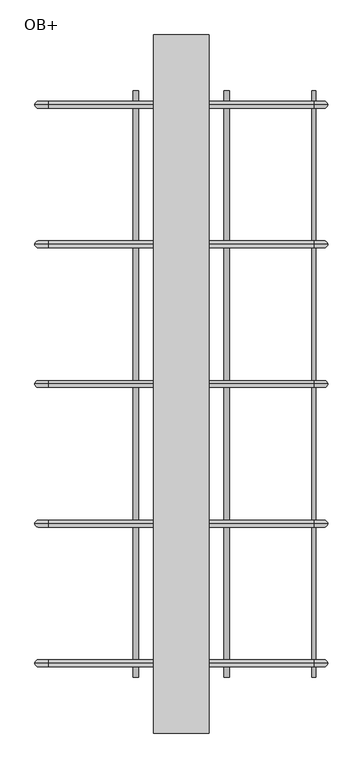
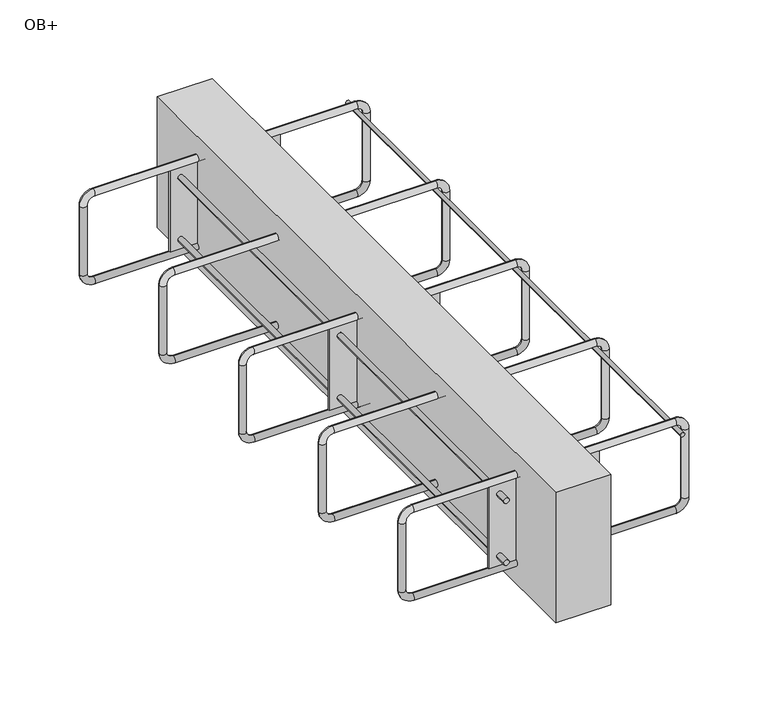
"""IFC4 building model written with IfcOpenShell, lengths in millimetres: fastener geometry, ACINOXplus_Typenreihe_Ux-Ox : OB+."""

from ifc_helpers import new_model, si_unit, point, frame, frame_2d, origin, place, context, project, spatial, polyline, circle_curve, ellipse_curve, trimmed, segment, composite_curve, outline, extrude, source, transform, mapped, element, save
from ifc_brep_helpers import cylinder_surface, revolved_surface, advanced_brep


def ob_f7585948(model_context):
    return source(origin(), model_context, "Body", "SolidModel", [
        extrude(outline(composite_curve([segment(trimmed(circle_curve(frame_2d((-40.5, 190.0)), 3.0), [point((-40.5, 193.0))], [point((-40.5, 187.0))], False, "CARTESIAN"), True, "CONTINUOUS"), segment(trimmed(circle_curve(frame_2d((-40.5, 190.0)), 3.0), [point((-40.5, 187.0))], [point((-40.5, 193.0))], False, "CARTESIAN"), True, "CONTINUOUS")], self_intersect=False)), frame((0.0, -420.0, 0.0), z_axis=(0.0, 1.0, 0.0), x_axis=(0.0, 0.0, 1.0)), (0.0, 0.0, 1.0), 840.0),
        extrude(outline(polyline([(40.0, 500.0), (40.0, -500.0), (-40.0, -500.0), (-40.0, 500.0), (40.0, 500.0)])), frame((0.0, 0.0, -200.0), z_axis=(0.0, 0.0, 1.0), x_axis=(1.0, 0.0, 0.0)), (0.0, 0.0, 1.0), 200.0),
        extrude(outline(polyline([(80.0, 1.5), (80.0, -1.5), (-80.0, -1.5), (-80.0, 1.5), (80.0, 1.5)])), frame((0.0, 0.0, -162.5), z_axis=(0.0, 0.0, 1.0), x_axis=(1.0, 0.0, 0.0)), (0.0, 0.0, 1.0), 125.0),
        extrude(outline(polyline([(80.0, -398.5), (80.0, -401.5), (-80.0, -401.5), (-80.0, -398.5), (80.0, -398.5)])), frame((0.0, 0.0, -162.5), z_axis=(0.0, 0.0, 1.0), x_axis=(1.0, 0.0, 0.0)), (0.0, 0.0, 1.0), 125.0),
        extrude(outline(polyline([(80.0, 401.5), (80.0, 398.5), (-80.0, 398.5), (-80.0, 401.5), (80.0, 401.5)])), frame((0.0, 0.0, -162.5), z_axis=(0.0, 0.0, 1.0), x_axis=(1.0, 0.0, 0.0)), (0.0, 0.0, 1.0), 125.0),
        extrude(outline(composite_curve([segment(trimmed(circle_curve(frame_2d((-147.5, -65.0)), 4.0), [point((-147.5, -61.0))], [point((-147.5, -69.0))], False, "CARTESIAN"), True, "CONTINUOUS"), segment(trimmed(circle_curve(frame_2d((-147.5, -65.0)), 4.0), [point((-147.5, -69.0))], [point((-147.5, -61.0))], False, "CARTESIAN"), True, "CONTINUOUS")], self_intersect=False)), frame((0.0, -420.0, 0.0), z_axis=(0.0, 1.0, 0.0), x_axis=(0.0, 0.0, 1.0)), (0.0, 0.0, 1.0), 18.5),
        extrude(outline(composite_curve([segment(trimmed(circle_curve(frame_2d((-147.5, -65.0)), 4.0), [point((-147.5, -69.0))], [point((-147.5, -61.0))], False, "CARTESIAN"), True, "CONTINUOUS"), segment(trimmed(circle_curve(frame_2d((-147.5, -65.0)), 4.0), [point((-147.5, -61.0))], [point((-147.5, -69.0))], False, "CARTESIAN"), True, "CONTINUOUS")], self_intersect=False)), frame((0.0, -398.5, 0.0), z_axis=(0.0, 1.0, 0.0), x_axis=(0.0, 0.0, 1.0)), (0.0, 0.0, 1.0), 397.0),
        extrude(outline(composite_curve([segment(trimmed(circle_curve(frame_2d((-147.5, -65.0)), 4.0), [point((-147.5, -69.0))], [point((-147.5, -61.0))], False, "CARTESIAN"), True, "CONTINUOUS"), segment(trimmed(circle_curve(frame_2d((-147.5, -65.0)), 4.0), [point((-147.5, -61.0))], [point((-147.5, -69.0))], False, "CARTESIAN"), True, "CONTINUOUS")], self_intersect=False)), frame((0.0, 401.5, 0.0), z_axis=(0.0, 1.0, 0.0), x_axis=(0.0, 0.0, 1.0)), (0.0, 0.0, 1.0), 18.5),
        extrude(outline(composite_curve([segment(trimmed(circle_curve(frame_2d((-147.5, -65.0)), 4.0), [point((-147.5, -69.0))], [point((-147.5, -61.0))], False, "CARTESIAN"), True, "CONTINUOUS"), segment(trimmed(circle_curve(frame_2d((-147.5, -65.0)), 4.0), [point((-147.5, -61.0))], [point((-147.5, -69.0))], False, "CARTESIAN"), True, "CONTINUOUS")], self_intersect=False)), frame((0.0, 1.5, 0.0), z_axis=(0.0, 1.0, 0.0), x_axis=(0.0, 0.0, 1.0)), (0.0, 0.0, 1.0), 397.0),
        extrude(outline(composite_curve([segment(trimmed(circle_curve(frame_2d((-147.5, 65.0)), 4.0), [point((-147.5, 69.0))], [point((-147.5, 61.0))], False, "CARTESIAN"), True, "CONTINUOUS"), segment(trimmed(circle_curve(frame_2d((-147.5, 65.0)), 4.0), [point((-147.5, 61.0))], [point((-147.5, 69.0))], False, "CARTESIAN"), True, "CONTINUOUS")], self_intersect=False)), frame((0.0, -420.0, 0.0), z_axis=(0.0, 1.0, 0.0), x_axis=(0.0, 0.0, 1.0)), (0.0, 0.0, 1.0), 18.5),
        extrude(outline(composite_curve([segment(trimmed(circle_curve(frame_2d((-147.5, 65.0)), 4.0), [point((-147.5, 61.0))], [point((-147.5, 69.0))], False, "CARTESIAN"), True, "CONTINUOUS"), segment(trimmed(circle_curve(frame_2d((-147.5, 65.0)), 4.0), [point((-147.5, 69.0))], [point((-147.5, 61.0))], False, "CARTESIAN"), True, "CONTINUOUS")], self_intersect=False)), frame((0.0, -398.5, 0.0), z_axis=(0.0, 1.0, 0.0), x_axis=(0.0, 0.0, 1.0)), (0.0, 0.0, 1.0), 397.0),
        extrude(outline(composite_curve([segment(trimmed(circle_curve(frame_2d((-147.5, 65.0)), 4.0), [point((-147.5, 61.0))], [point((-147.5, 69.0))], False, "CARTESIAN"), True, "CONTINUOUS"), segment(trimmed(circle_curve(frame_2d((-147.5, 65.0)), 4.0), [point((-147.5, 69.0))], [point((-147.5, 61.0))], False, "CARTESIAN"), True, "CONTINUOUS")], self_intersect=False)), frame((0.0, 401.5, 0.0), z_axis=(0.0, 1.0, 0.0), x_axis=(0.0, 0.0, 1.0)), (0.0, 0.0, 1.0), 18.5),
        extrude(outline(composite_curve([segment(trimmed(circle_curve(frame_2d((-147.5, 65.0)), 4.0), [point((-147.5, 61.0))], [point((-147.5, 69.0))], False, "CARTESIAN"), True, "CONTINUOUS"), segment(trimmed(circle_curve(frame_2d((-147.5, 65.0)), 4.0), [point((-147.5, 69.0))], [point((-147.5, 61.0))], False, "CARTESIAN"), True, "CONTINUOUS")], self_intersect=False)), frame((0.0, 1.5, 0.0), z_axis=(0.0, 1.0, 0.0), x_axis=(0.0, 0.0, 1.0)), (0.0, 0.0, 1.0), 397.0),
        extrude(outline(composite_curve([segment(trimmed(circle_curve(frame_2d((-52.5, -65.0)), 4.0), [point((-52.5, -69.0))], [point((-52.5, -61.0))], False, "CARTESIAN"), True, "CONTINUOUS"), segment(trimmed(circle_curve(frame_2d((-52.5, -65.0)), 4.0), [point((-52.5, -61.0))], [point((-52.5, -69.0))], False, "CARTESIAN"), True, "CONTINUOUS")], self_intersect=False)), frame((0.0, 401.5, 0.0), z_axis=(0.0, 1.0, 0.0), x_axis=(0.0, 0.0, 1.0)), (0.0, 0.0, 1.0), 18.5),
        extrude(outline(composite_curve([segment(trimmed(circle_curve(frame_2d((-52.5, -65.0)), 4.0), [point((-52.5, -61.0))], [point((-52.5, -69.0))], False, "CARTESIAN"), True, "CONTINUOUS"), segment(trimmed(circle_curve(frame_2d((-52.5, -65.0)), 4.0), [point((-52.5, -69.0))], [point((-52.5, -61.0))], False, "CARTESIAN"), True, "CONTINUOUS")], self_intersect=False)), frame((0.0, -420.0, 0.0), z_axis=(0.0, 1.0, 0.0), x_axis=(0.0, 0.0, 1.0)), (0.0, 0.0, 1.0), 18.5),
        extrude(outline(composite_curve([segment(trimmed(circle_curve(frame_2d((-52.5, -65.0)), 4.0), [point((-52.5, -69.0))], [point((-52.5, -61.0))], False, "CARTESIAN"), True, "CONTINUOUS"), segment(trimmed(circle_curve(frame_2d((-52.5, -65.0)), 4.0), [point((-52.5, -61.0))], [point((-52.5, -69.0))], False, "CARTESIAN"), True, "CONTINUOUS")], self_intersect=False)), frame((0.0, -398.5, 0.0), z_axis=(0.0, 1.0, 0.0), x_axis=(0.0, 0.0, 1.0)), (0.0, 0.0, 1.0), 397.0),
        extrude(outline(composite_curve([segment(trimmed(circle_curve(frame_2d((-52.5, -65.0)), 4.0), [point((-52.5, -69.0))], [point((-52.5, -61.0))], False, "CARTESIAN"), True, "CONTINUOUS"), segment(trimmed(circle_curve(frame_2d((-52.5, -65.0)), 4.0), [point((-52.5, -61.0))], [point((-52.5, -69.0))], False, "CARTESIAN"), True, "CONTINUOUS")], self_intersect=False)), frame((0.0, 1.5, 0.0), z_axis=(0.0, 1.0, 0.0), x_axis=(0.0, 0.0, 1.0)), (0.0, 0.0, 1.0), 397.0),
        extrude(outline(composite_curve([segment(trimmed(circle_curve(frame_2d((-52.5, 65.0)), 4.0), [point((-52.5, 61.0))], [point((-52.5, 69.0))], False, "CARTESIAN"), True, "CONTINUOUS"), segment(trimmed(circle_curve(frame_2d((-52.5, 65.0)), 4.0), [point((-52.5, 69.0))], [point((-52.5, 61.0))], False, "CARTESIAN"), True, "CONTINUOUS")], self_intersect=False)), frame((0.0, 401.5, 0.0), z_axis=(0.0, 1.0, 0.0), x_axis=(0.0, 0.0, 1.0)), (0.0, 0.0, 1.0), 18.5),
        extrude(outline(composite_curve([segment(trimmed(circle_curve(frame_2d((-52.5, 65.0)), 4.0), [point((-52.5, 69.0))], [point((-52.5, 61.0))], False, "CARTESIAN"), True, "CONTINUOUS"), segment(trimmed(circle_curve(frame_2d((-52.5, 65.0)), 4.0), [point((-52.5, 61.0))], [point((-52.5, 69.0))], False, "CARTESIAN"), True, "CONTINUOUS")], self_intersect=False)), frame((0.0, -420.0, 0.0), z_axis=(0.0, 1.0, 0.0), x_axis=(0.0, 0.0, 1.0)), (0.0, 0.0, 1.0), 18.5),
        extrude(outline(composite_curve([segment(trimmed(circle_curve(frame_2d((-52.5, 65.0)), 4.0), [point((-52.5, 61.0))], [point((-52.5, 69.0))], False, "CARTESIAN"), True, "CONTINUOUS"), segment(trimmed(circle_curve(frame_2d((-52.5, 65.0)), 4.0), [point((-52.5, 69.0))], [point((-52.5, 61.0))], False, "CARTESIAN"), True, "CONTINUOUS")], self_intersect=False)), frame((0.0, -398.5, 0.0), z_axis=(0.0, 1.0, 0.0), x_axis=(0.0, 0.0, 1.0)), (0.0, 0.0, 1.0), 397.0),
        extrude(outline(composite_curve([segment(trimmed(circle_curve(frame_2d((-52.5, 65.0)), 4.0), [point((-52.5, 61.0))], [point((-52.5, 69.0))], False, "CARTESIAN"), True, "CONTINUOUS"), segment(trimmed(circle_curve(frame_2d((-52.5, 65.0)), 4.0), [point((-52.5, 69.0))], [point((-52.5, 61.0))], False, "CARTESIAN"), True, "CONTINUOUS")], self_intersect=False)), frame((0.0, 1.5, 0.0), z_axis=(0.0, 1.0, 0.0), x_axis=(0.0, 0.0, 1.0)), (0.0, 0.0, 1.0), 397.0),
        advanced_brep(
        [(190.0, 200.0, -37.5), (190.0, 200.0, -27.5), (-190.0, 200.0, -27.5), (-190.0, 200.0, -37.5), (-200.0, 200.0, -47.5), (-210.0, 200.0, -47.5), (-210.0, 200.0, -152.5), (-200.0, 200.0, -152.5), (-190.0, 200.0, -162.5), (-190.0, 200.0, -172.5), (190.0, 200.0, -172.5), (190.0, 200.0, -162.5), (200.0, 200.0, -152.5), (210.0, 200.0, -152.5), (210.0, 200.0, -47.5), (200.0, 200.0, -47.5)],
        [
            (0, 1, circle_curve(frame((190.0, 200.0, -32.5), z_axis=(-1.0, 0.0, 0.0), x_axis=(0.0, 0.0, -1.0)), 5.0)),
            (1, 2),
            (2, 3, circle_curve(frame((-190.0, 200.0, -32.5), z_axis=(1.0, 0.0, 0.0), x_axis=(0.0, 0.0, -1.0)), 5.0)),
            (3, 0),
            (1, 0, circle_curve(frame((190.0, 200.0, -32.5), z_axis=(-1.0, 0.0, 0.0), x_axis=(0.0, 0.0, -1.0)), 5.0)),
            (3, 2, circle_curve(frame((-190.0, 200.0, -32.5), z_axis=(1.0, 0.0, 0.0), x_axis=(0.0, 0.0, -1.0)), 5.0)),
            (4, 3, circle_curve(frame((-190.0, 200.0, -47.5), z_axis=(0.0, 1.0, 0.0), x_axis=(0.0, 0.0, 1.0)), 10.0)),
            (2, 5, circle_curve(frame((-190.0, 200.0, -47.5), z_axis=(0.0, -1.0, 0.0), x_axis=(0.0, 0.0, 1.0)), 20.0)),
            (5, 4, circle_curve(frame((-205.0, 200.0, -47.5), z_axis=(0.0, 0.0, 1.0), x_axis=(1.0, 0.0, 0.0)), 5.0)),
            (4, 5, circle_curve(frame((-205.0, 200.0, -47.5), z_axis=(0.0, 0.0, 1.0), x_axis=(1.0, 0.0, 0.0)), 5.0)),
            (5, 6),
            (6, 7, circle_curve(frame((-205.0, 200.0, -152.5), z_axis=(0.0, 0.0, 1.0), x_axis=(1.0, 0.0, 0.0)), 5.0)),
            (7, 4),
            (7, 6, circle_curve(frame((-205.0, 200.0, -152.5), z_axis=(0.0, 0.0, 1.0), x_axis=(1.0, 0.0, 0.0)), 5.0)),
            (8, 7, circle_curve(frame((-190.0, 200.0, -152.5), z_axis=(0.0, 1.0, 0.0), x_axis=(-1.0, 0.0, 0.0)), 10.0)),
            (6, 9, circle_curve(frame((-190.0, 200.0, -152.5), z_axis=(0.0, -1.0, 0.0), x_axis=(-1.0, 0.0, 0.0)), 20.0)),
            (9, 8, circle_curve(frame((-190.0, 200.0, -167.5), z_axis=(-1.0, 0.0, 0.0), x_axis=(0.0, 0.0, 1.0)), 5.0)),
            (8, 9, circle_curve(frame((-190.0, 200.0, -167.5), z_axis=(-1.0, 0.0, 0.0), x_axis=(0.0, 0.0, 1.0)), 5.0)),
            (9, 10),
            (10, 11, circle_curve(frame((190.0, 200.0, -167.5), z_axis=(-1.0, 0.0, 0.0), x_axis=(0.0, 0.0, 1.0)), 5.0)),
            (11, 8),
            (11, 10, circle_curve(frame((190.0, 200.0, -167.5), z_axis=(-1.0, 0.0, 0.0), x_axis=(0.0, 0.0, 1.0)), 5.0)),
            (12, 11, circle_curve(frame((190.0, 200.0, -152.5), z_axis=(0.0, 1.0, 0.0), x_axis=(0.0, 0.0, -1.0)), 10.0)),
            (10, 13, circle_curve(frame((190.0, 200.0, -152.5), z_axis=(0.0, -1.0, 0.0), x_axis=(0.0, 0.0, -1.0)), 20.0)),
            (13, 12, circle_curve(frame((205.0, 200.0, -152.5), z_axis=(0.0, 0.0, -1.0), x_axis=(-1.0, 0.0, 0.0)), 5.0)),
            (12, 13, circle_curve(frame((205.0, 200.0, -152.5), z_axis=(0.0, 0.0, -1.0), x_axis=(-1.0, 0.0, 0.0)), 5.0)),
            (13, 14),
            (14, 15, circle_curve(frame((205.0, 200.0, -47.5), z_axis=(0.0, 0.0, -1.0), x_axis=(-1.0, 0.0, 0.0)), 5.0)),
            (15, 12),
            (15, 14, circle_curve(frame((205.0, 200.0, -47.5), z_axis=(0.0, 0.0, -1.0), x_axis=(-1.0, 0.0, 0.0)), 5.0)),
            (0, 15, circle_curve(frame((190.0, 200.0, -47.5), z_axis=(0.0, 1.0, 0.0), x_axis=(1.0, 0.0, 0.0)), 10.0)),
            (14, 1, circle_curve(frame((190.0, 200.0, -47.5), z_axis=(0.0, -1.0, 0.0), x_axis=(1.0, 0.0, 0.0)), 20.0)),
        ],
        [
            cylinder_surface(frame((190.0, 200.0, -32.5), z_axis=(1.0, 0.0, 0.0), x_axis=(0.0, 0.0, -1.0)), 5.0),
            revolved_surface(trimmed(ellipse_curve(frame((-190.0, 200.0, -32.5), z_axis=(1.0, 0.0, 0.0), x_axis=(0.0, 0.0, -1.0)), 5.0, 5.0), [point((-190.0, 200.0, -27.5))], [point((-190.0, 200.0, -37.5))], True, "CARTESIAN"), (-190.0, 200.0, -47.5), (0.0, -1.0, 0.0)),
            revolved_surface(trimmed(ellipse_curve(frame((-190.0, 200.0, -32.5), z_axis=(1.0, 0.0, 0.0), x_axis=(0.0, 0.0, -1.0)), 5.0, 5.0), [point((-190.0, 200.0, -37.5))], [point((-190.0, 200.0, -27.5))], True, "CARTESIAN"), (-190.0, 200.0, -47.5), (0.0, -1.0, 0.0)),
            cylinder_surface(frame((-205.0, 200.0, -47.5), z_axis=(0.0, 0.0, 1.0), x_axis=(1.0, 0.0, 0.0)), 5.0),
            revolved_surface(trimmed(ellipse_curve(frame((-205.0, 200.0, -152.5), z_axis=(0.0, 0.0, 1.0), x_axis=(1.0, 0.0, 0.0)), 5.0, 5.0), [point((-210.0, 200.0, -152.5))], [point((-200.0, 200.0, -152.5))], True, "CARTESIAN"), (-190.0, 200.0, -152.5), (0.0, -1.0, 0.0)),
            revolved_surface(trimmed(ellipse_curve(frame((-205.0, 200.0, -152.5), z_axis=(0.0, 0.0, 1.0), x_axis=(1.0, 0.0, 0.0)), 5.0, 5.0), [point((-200.0, 200.0, -152.5))], [point((-210.0, 200.0, -152.5))], True, "CARTESIAN"), (-190.0, 200.0, -152.5), (0.0, -1.0, 0.0)),
            cylinder_surface(frame((-190.0, 200.0, -167.5), z_axis=(-1.0, 0.0, 0.0), x_axis=(0.0, 0.0, 1.0)), 5.0),
            revolved_surface(trimmed(ellipse_curve(frame((190.0, 200.0, -167.5), z_axis=(-1.0, 0.0, 0.0), x_axis=(0.0, 0.0, 1.0)), 5.0, 5.0), [point((190.0, 200.0, -172.5))], [point((190.0, 200.0, -162.5))], True, "CARTESIAN"), (190.0, 200.0, -152.5), (0.0, -1.0, 0.0)),
            revolved_surface(trimmed(ellipse_curve(frame((190.0, 200.0, -167.5), z_axis=(-1.0, 0.0, 0.0), x_axis=(0.0, 0.0, 1.0)), 5.0, 5.0), [point((190.0, 200.0, -162.5))], [point((190.0, 200.0, -172.5))], True, "CARTESIAN"), (190.0, 200.0, -152.5), (0.0, -1.0, 0.0)),
            cylinder_surface(frame((205.0, 200.0, -152.5), z_axis=(0.0, 0.0, -1.0), x_axis=(-1.0, 0.0, 0.0)), 5.0),
            revolved_surface(trimmed(ellipse_curve(frame((205.0, 200.0, -47.5), z_axis=(0.0, 0.0, -1.0), x_axis=(-1.0, 0.0, 0.0)), 5.0, 5.0), [point((210.0, 200.0, -47.5))], [point((200.0, 200.0, -47.5))], True, "CARTESIAN"), (190.0, 200.0, -47.5), (0.0, -1.0, 0.0)),
            revolved_surface(trimmed(ellipse_curve(frame((205.0, 200.0, -47.5), z_axis=(0.0, 0.0, -1.0), x_axis=(-1.0, 0.0, 0.0)), 5.0, 5.0), [point((200.0, 200.0, -47.5))], [point((210.0, 200.0, -47.5))], True, "CARTESIAN"), (190.0, 200.0, -47.5), (0.0, -1.0, 0.0)),
        ],
        [
            (0, [[1, 2, 3, 4]]),
            (0, [[5, -4, 6, -2]]),
            (1, [[7, -3, 8, 9]]),
            (2, [[-8, -6, -7, 10]]),
            (3, [[-9, 11, 12, 13]]),
            (3, [[-10, -13, 14, -11]]),
            (4, [[15, -12, 16, 17]]),
            (5, [[-16, -14, -15, 18]]),
            (6, [[-17, 19, 20, 21]]),
            (6, [[-18, -21, 22, -19]]),
            (7, [[23, -20, 24, 25]]),
            (8, [[-24, -22, -23, 26]]),
            (9, [[-25, 27, 28, 29]]),
            (9, [[-26, -29, 30, -27]]),
            (10, [[31, -28, 32, -1]]),
            (11, [[-32, -30, -31, -5]]),
        ],
    ),
        advanced_brep(
        [(190.0, 0.0, -37.5), (190.0, 0.0, -27.5), (-190.0, 0.0, -27.5), (-190.0, 0.0, -37.5), (-200.0, 0.0, -47.5), (-210.0, 0.0, -47.5), (-210.0, 0.0, -152.5), (-200.0, 0.0, -152.5), (-190.0, 0.0, -162.5), (-190.0, 0.0, -172.5), (190.0, 0.0, -172.5), (190.0, 0.0, -162.5), (200.0, 0.0, -152.5), (210.0, 0.0, -152.5), (210.0, 0.0, -47.5), (200.0, 0.0, -47.5)],
        [
            (0, 1, circle_curve(frame((190.0, 0.0, -32.5), z_axis=(-1.0, 0.0, 0.0), x_axis=(0.0, 0.0, -1.0)), 5.0)),
            (1, 2),
            (2, 3, circle_curve(frame((-190.0, 0.0, -32.5), z_axis=(1.0, 0.0, 0.0), x_axis=(0.0, 0.0, -1.0)), 5.0)),
            (3, 0),
            (1, 0, circle_curve(frame((190.0, 0.0, -32.5), z_axis=(-1.0, 0.0, 0.0), x_axis=(0.0, 0.0, -1.0)), 5.0)),
            (3, 2, circle_curve(frame((-190.0, 0.0, -32.5), z_axis=(1.0, 0.0, 0.0), x_axis=(0.0, 0.0, -1.0)), 5.0)),
            (4, 3, circle_curve(frame((-190.0, 0.0, -47.5), z_axis=(0.0, 1.0, 0.0), x_axis=(0.0, 0.0, 1.0)), 10.0)),
            (2, 5, circle_curve(frame((-190.0, 0.0, -47.5), z_axis=(0.0, -1.0, 0.0), x_axis=(0.0, 0.0, 1.0)), 20.0)),
            (5, 4, circle_curve(frame((-205.0, 0.0, -47.5), z_axis=(0.0, 0.0, 1.0), x_axis=(1.0, 0.0, 0.0)), 5.0)),
            (4, 5, circle_curve(frame((-205.0, 0.0, -47.5), z_axis=(0.0, 0.0, 1.0), x_axis=(1.0, 0.0, 0.0)), 5.0)),
            (5, 6),
            (6, 7, circle_curve(frame((-205.0, 0.0, -152.5), z_axis=(0.0, 0.0, 1.0), x_axis=(1.0, 0.0, 0.0)), 5.0)),
            (7, 4),
            (7, 6, circle_curve(frame((-205.0, 0.0, -152.5), z_axis=(0.0, 0.0, 1.0), x_axis=(1.0, 0.0, 0.0)), 5.0)),
            (8, 7, circle_curve(frame((-190.0, 0.0, -152.5), z_axis=(0.0, 1.0, 0.0), x_axis=(-1.0, 0.0, 0.0)), 10.0)),
            (6, 9, circle_curve(frame((-190.0, 0.0, -152.5), z_axis=(0.0, -1.0, 0.0), x_axis=(-1.0, 0.0, 0.0)), 20.0)),
            (9, 8, circle_curve(frame((-190.0, 0.0, -167.5), z_axis=(-1.0, 0.0, 0.0), x_axis=(0.0, 0.0, 1.0)), 5.0)),
            (8, 9, circle_curve(frame((-190.0, 0.0, -167.5), z_axis=(-1.0, 0.0, 0.0), x_axis=(0.0, 0.0, 1.0)), 5.0)),
            (9, 10),
            (10, 11, circle_curve(frame((190.0, 0.0, -167.5), z_axis=(-1.0, 0.0, 0.0), x_axis=(0.0, 0.0, 1.0)), 5.0)),
            (11, 8),
            (11, 10, circle_curve(frame((190.0, 0.0, -167.5), z_axis=(-1.0, 0.0, 0.0), x_axis=(0.0, 0.0, 1.0)), 5.0)),
            (12, 11, circle_curve(frame((190.0, 0.0, -152.5), z_axis=(0.0, 1.0, 0.0), x_axis=(0.0, 0.0, -1.0)), 10.0)),
            (10, 13, circle_curve(frame((190.0, 0.0, -152.5), z_axis=(0.0, -1.0, 0.0), x_axis=(0.0, 0.0, -1.0)), 20.0)),
            (13, 12, circle_curve(frame((205.0, 0.0, -152.5), z_axis=(0.0, 0.0, -1.0), x_axis=(-1.0, 0.0, 0.0)), 5.0)),
            (12, 13, circle_curve(frame((205.0, 0.0, -152.5), z_axis=(0.0, 0.0, -1.0), x_axis=(-1.0, 0.0, 0.0)), 5.0)),
            (13, 14),
            (14, 15, circle_curve(frame((205.0, 0.0, -47.5), z_axis=(0.0, 0.0, -1.0), x_axis=(-1.0, 0.0, 0.0)), 5.0)),
            (15, 12),
            (15, 14, circle_curve(frame((205.0, 0.0, -47.5), z_axis=(0.0, 0.0, -1.0), x_axis=(-1.0, 0.0, 0.0)), 5.0)),
            (0, 15, circle_curve(frame((190.0, 0.0, -47.5), z_axis=(0.0, 1.0, 0.0), x_axis=(1.0, 0.0, 0.0)), 10.0)),
            (14, 1, circle_curve(frame((190.0, 0.0, -47.5), z_axis=(0.0, -1.0, 0.0), x_axis=(1.0, 0.0, 0.0)), 20.0)),
        ],
        [
            cylinder_surface(frame((190.0, 0.0, -32.5), z_axis=(1.0, 0.0, 0.0), x_axis=(0.0, 0.0, -1.0)), 5.0),
            revolved_surface(trimmed(ellipse_curve(frame((-190.0, 0.0, -32.5), z_axis=(1.0, 0.0, 0.0), x_axis=(0.0, 0.0, -1.0)), 5.0, 5.0), [point((-190.0, 0.0, -27.5))], [point((-190.0, 0.0, -37.5))], True, "CARTESIAN"), (-190.0, 0.0, -47.5), (0.0, -1.0, 0.0)),
            revolved_surface(trimmed(ellipse_curve(frame((-190.0, 0.0, -32.5), z_axis=(1.0, 0.0, 0.0), x_axis=(0.0, 0.0, -1.0)), 5.0, 5.0), [point((-190.0, 0.0, -37.5))], [point((-190.0, 0.0, -27.5))], True, "CARTESIAN"), (-190.0, 0.0, -47.5), (0.0, -1.0, 0.0)),
            cylinder_surface(frame((-205.0, 0.0, -47.5), z_axis=(0.0, 0.0, 1.0), x_axis=(1.0, 0.0, 0.0)), 5.0),
            revolved_surface(trimmed(ellipse_curve(frame((-205.0, 0.0, -152.5), z_axis=(0.0, 0.0, 1.0), x_axis=(1.0, 0.0, 0.0)), 5.0, 5.0), [point((-210.0, 0.0, -152.5))], [point((-200.0, 0.0, -152.5))], True, "CARTESIAN"), (-190.0, 0.0, -152.5), (0.0, -1.0, 0.0)),
            revolved_surface(trimmed(ellipse_curve(frame((-205.0, 0.0, -152.5), z_axis=(0.0, 0.0, 1.0), x_axis=(1.0, 0.0, 0.0)), 5.0, 5.0), [point((-200.0, 0.0, -152.5))], [point((-210.0, 0.0, -152.5))], True, "CARTESIAN"), (-190.0, 0.0, -152.5), (0.0, -1.0, 0.0)),
            cylinder_surface(frame((-190.0, 0.0, -167.5), z_axis=(-1.0, 0.0, 0.0), x_axis=(0.0, 0.0, 1.0)), 5.0),
            revolved_surface(trimmed(ellipse_curve(frame((190.0, 0.0, -167.5), z_axis=(-1.0, 0.0, 0.0), x_axis=(0.0, 0.0, 1.0)), 5.0, 5.0), [point((190.0, 0.0, -172.5))], [point((190.0, 0.0, -162.5))], True, "CARTESIAN"), (190.0, 0.0, -152.5), (0.0, -1.0, 0.0)),
            revolved_surface(trimmed(ellipse_curve(frame((190.0, 0.0, -167.5), z_axis=(-1.0, 0.0, 0.0), x_axis=(0.0, 0.0, 1.0)), 5.0, 5.0), [point((190.0, 0.0, -162.5))], [point((190.0, 0.0, -172.5))], True, "CARTESIAN"), (190.0, 0.0, -152.5), (0.0, -1.0, 0.0)),
            cylinder_surface(frame((205.0, 0.0, -152.5), z_axis=(0.0, 0.0, -1.0), x_axis=(-1.0, 0.0, 0.0)), 5.0),
            revolved_surface(trimmed(ellipse_curve(frame((205.0, 0.0, -47.5), z_axis=(0.0, 0.0, -1.0), x_axis=(-1.0, 0.0, 0.0)), 5.0, 5.0), [point((210.0, 0.0, -47.5))], [point((200.0, 0.0, -47.5))], True, "CARTESIAN"), (190.0, 0.0, -47.5), (0.0, -1.0, 0.0)),
            revolved_surface(trimmed(ellipse_curve(frame((205.0, 0.0, -47.5), z_axis=(0.0, 0.0, -1.0), x_axis=(-1.0, 0.0, 0.0)), 5.0, 5.0), [point((200.0, 0.0, -47.5))], [point((210.0, 0.0, -47.5))], True, "CARTESIAN"), (190.0, 0.0, -47.5), (0.0, -1.0, 0.0)),
        ],
        [
            (0, [[1, 2, 3, 4]]),
            (0, [[5, -4, 6, -2]]),
            (1, [[7, -3, 8, 9]]),
            (2, [[-8, -6, -7, 10]]),
            (3, [[-9, 11, 12, 13]]),
            (3, [[-10, -13, 14, -11]]),
            (4, [[15, -12, 16, 17]]),
            (5, [[-16, -14, -15, 18]]),
            (6, [[-17, 19, 20, 21]]),
            (6, [[-18, -21, 22, -19]]),
            (7, [[23, -20, 24, 25]]),
            (8, [[-24, -22, -23, 26]]),
            (9, [[-25, 27, 28, 29]]),
            (9, [[-26, -29, 30, -27]]),
            (10, [[31, -28, 32, -1]]),
            (11, [[-32, -30, -31, -5]]),
        ],
    ),
        advanced_brep(
        [(190.0, -200.0, -37.5), (190.0, -200.0, -27.5), (-190.0, -200.0, -27.5), (-190.0, -200.0, -37.5), (-200.0, -200.0, -47.5), (-210.0, -200.0, -47.5), (-210.0, -200.0, -152.5), (-200.0, -200.0, -152.5), (-190.0, -200.0, -162.5), (-190.0, -200.0, -172.5), (190.0, -200.0, -172.5), (190.0, -200.0, -162.5), (200.0, -200.0, -152.5), (210.0, -200.0, -152.5), (210.0, -200.0, -47.5), (200.0, -200.0, -47.5)],
        [
            (0, 1, circle_curve(frame((190.0, -200.0, -32.5), z_axis=(-1.0, 0.0, 0.0), x_axis=(0.0, 0.0, -1.0)), 5.0)),
            (1, 2),
            (2, 3, circle_curve(frame((-190.0, -200.0, -32.5), z_axis=(1.0, 0.0, 0.0), x_axis=(0.0, 0.0, -1.0)), 5.0)),
            (3, 0),
            (1, 0, circle_curve(frame((190.0, -200.0, -32.5), z_axis=(-1.0, 0.0, 0.0), x_axis=(0.0, 0.0, -1.0)), 5.0)),
            (3, 2, circle_curve(frame((-190.0, -200.0, -32.5), z_axis=(1.0, 0.0, 0.0), x_axis=(0.0, 0.0, -1.0)), 5.0)),
            (4, 3, circle_curve(frame((-190.0, -200.0, -47.5), z_axis=(0.0, 1.0, 0.0), x_axis=(0.0, 0.0, 1.0)), 10.0)),
            (2, 5, circle_curve(frame((-190.0, -200.0, -47.5), z_axis=(0.0, -1.0, 0.0), x_axis=(0.0, 0.0, 1.0)), 20.0)),
            (5, 4, circle_curve(frame((-205.0, -200.0, -47.5), z_axis=(0.0, 0.0, 1.0), x_axis=(1.0, 0.0, 0.0)), 5.0)),
            (4, 5, circle_curve(frame((-205.0, -200.0, -47.5), z_axis=(0.0, 0.0, 1.0), x_axis=(1.0, 0.0, 0.0)), 5.0)),
            (5, 6),
            (6, 7, circle_curve(frame((-205.0, -200.0, -152.5), z_axis=(0.0, 0.0, 1.0), x_axis=(1.0, 0.0, 0.0)), 5.0)),
            (7, 4),
            (7, 6, circle_curve(frame((-205.0, -200.0, -152.5), z_axis=(0.0, 0.0, 1.0), x_axis=(1.0, 0.0, 0.0)), 5.0)),
            (8, 7, circle_curve(frame((-190.0, -200.0, -152.5), z_axis=(0.0, 1.0, 0.0), x_axis=(-1.0, 0.0, 0.0)), 10.0)),
            (6, 9, circle_curve(frame((-190.0, -200.0, -152.5), z_axis=(0.0, -1.0, 0.0), x_axis=(-1.0, 0.0, 0.0)), 20.0)),
            (9, 8, circle_curve(frame((-190.0, -200.0, -167.5), z_axis=(-1.0, 0.0, 0.0), x_axis=(0.0, 0.0, 1.0)), 5.0)),
            (8, 9, circle_curve(frame((-190.0, -200.0, -167.5), z_axis=(-1.0, 0.0, 0.0), x_axis=(0.0, 0.0, 1.0)), 5.0)),
            (9, 10),
            (10, 11, circle_curve(frame((190.0, -200.0, -167.5), z_axis=(-1.0, 0.0, 0.0), x_axis=(0.0, 0.0, 1.0)), 5.0)),
            (11, 8),
            (11, 10, circle_curve(frame((190.0, -200.0, -167.5), z_axis=(-1.0, 0.0, 0.0), x_axis=(0.0, 0.0, 1.0)), 5.0)),
            (12, 11, circle_curve(frame((190.0, -200.0, -152.5), z_axis=(0.0, 1.0, 0.0), x_axis=(0.0, 0.0, -1.0)), 10.0)),
            (10, 13, circle_curve(frame((190.0, -200.0, -152.5), z_axis=(0.0, -1.0, 0.0), x_axis=(0.0, 0.0, -1.0)), 20.0)),
            (13, 12, circle_curve(frame((205.0, -200.0, -152.5), z_axis=(0.0, 0.0, -1.0), x_axis=(-1.0, 0.0, 0.0)), 5.0)),
            (12, 13, circle_curve(frame((205.0, -200.0, -152.5), z_axis=(0.0, 0.0, -1.0), x_axis=(-1.0, 0.0, 0.0)), 5.0)),
            (13, 14),
            (14, 15, circle_curve(frame((205.0, -200.0, -47.5), z_axis=(0.0, 0.0, -1.0), x_axis=(-1.0, 0.0, 0.0)), 5.0)),
            (15, 12),
            (15, 14, circle_curve(frame((205.0, -200.0, -47.5), z_axis=(0.0, 0.0, -1.0), x_axis=(-1.0, 0.0, 0.0)), 5.0)),
            (0, 15, circle_curve(frame((190.0, -200.0, -47.5), z_axis=(0.0, 1.0, 0.0), x_axis=(1.0, 0.0, 0.0)), 10.0)),
            (14, 1, circle_curve(frame((190.0, -200.0, -47.5), z_axis=(0.0, -1.0, 0.0), x_axis=(1.0, 0.0, 0.0)), 20.0)),
        ],
        [
            cylinder_surface(frame((190.0, -200.0, -32.5), z_axis=(1.0, 0.0, 0.0), x_axis=(0.0, 0.0, -1.0)), 5.0),
            revolved_surface(trimmed(ellipse_curve(frame((-190.0, -200.0, -32.5), z_axis=(1.0, 0.0, 0.0), x_axis=(0.0, 0.0, -1.0)), 5.0, 5.0), [point((-190.0, -200.0, -27.5))], [point((-190.0, -200.0, -37.5))], True, "CARTESIAN"), (-190.0, -200.0, -47.5), (0.0, -1.0, 0.0)),
            revolved_surface(trimmed(ellipse_curve(frame((-190.0, -200.0, -32.5), z_axis=(1.0, 0.0, 0.0), x_axis=(0.0, 0.0, -1.0)), 5.0, 5.0), [point((-190.0, -200.0, -37.5))], [point((-190.0, -200.0, -27.5))], True, "CARTESIAN"), (-190.0, -200.0, -47.5), (0.0, -1.0, 0.0)),
            cylinder_surface(frame((-205.0, -200.0, -47.5), z_axis=(0.0, 0.0, 1.0), x_axis=(1.0, 0.0, 0.0)), 5.0),
            revolved_surface(trimmed(ellipse_curve(frame((-205.0, -200.0, -152.5), z_axis=(0.0, 0.0, 1.0), x_axis=(1.0, 0.0, 0.0)), 5.0, 5.0), [point((-210.0, -200.0, -152.5))], [point((-200.0, -200.0, -152.5))], True, "CARTESIAN"), (-190.0, -200.0, -152.5), (0.0, -1.0, 0.0)),
            revolved_surface(trimmed(ellipse_curve(frame((-205.0, -200.0, -152.5), z_axis=(0.0, 0.0, 1.0), x_axis=(1.0, 0.0, 0.0)), 5.0, 5.0), [point((-200.0, -200.0, -152.5))], [point((-210.0, -200.0, -152.5))], True, "CARTESIAN"), (-190.0, -200.0, -152.5), (0.0, -1.0, 0.0)),
            cylinder_surface(frame((-190.0, -200.0, -167.5), z_axis=(-1.0, 0.0, 0.0), x_axis=(0.0, 0.0, 1.0)), 5.0),
            revolved_surface(trimmed(ellipse_curve(frame((190.0, -200.0, -167.5), z_axis=(-1.0, 0.0, 0.0), x_axis=(0.0, 0.0, 1.0)), 5.0, 5.0), [point((190.0, -200.0, -172.5))], [point((190.0, -200.0, -162.5))], True, "CARTESIAN"), (190.0, -200.0, -152.5), (0.0, -1.0, 0.0)),
            revolved_surface(trimmed(ellipse_curve(frame((190.0, -200.0, -167.5), z_axis=(-1.0, 0.0, 0.0), x_axis=(0.0, 0.0, 1.0)), 5.0, 5.0), [point((190.0, -200.0, -162.5))], [point((190.0, -200.0, -172.5))], True, "CARTESIAN"), (190.0, -200.0, -152.5), (0.0, -1.0, 0.0)),
            cylinder_surface(frame((205.0, -200.0, -152.5), z_axis=(0.0, 0.0, -1.0), x_axis=(-1.0, 0.0, 0.0)), 5.0),
            revolved_surface(trimmed(ellipse_curve(frame((205.0, -200.0, -47.5), z_axis=(0.0, 0.0, -1.0), x_axis=(-1.0, 0.0, 0.0)), 5.0, 5.0), [point((210.0, -200.0, -47.5))], [point((200.0, -200.0, -47.5))], True, "CARTESIAN"), (190.0, -200.0, -47.5), (0.0, -1.0, 0.0)),
            revolved_surface(trimmed(ellipse_curve(frame((205.0, -200.0, -47.5), z_axis=(0.0, 0.0, -1.0), x_axis=(-1.0, 0.0, 0.0)), 5.0, 5.0), [point((200.0, -200.0, -47.5))], [point((210.0, -200.0, -47.5))], True, "CARTESIAN"), (190.0, -200.0, -47.5), (0.0, -1.0, 0.0)),
        ],
        [
            (0, [[1, 2, 3, 4]]),
            (0, [[5, -4, 6, -2]]),
            (1, [[7, -3, 8, 9]]),
            (2, [[-8, -6, -7, 10]]),
            (3, [[-9, 11, 12, 13]]),
            (3, [[-10, -13, 14, -11]]),
            (4, [[15, -12, 16, 17]]),
            (5, [[-16, -14, -15, 18]]),
            (6, [[-17, 19, 20, 21]]),
            (6, [[-18, -21, 22, -19]]),
            (7, [[23, -20, 24, 25]]),
            (8, [[-24, -22, -23, 26]]),
            (9, [[-25, 27, 28, 29]]),
            (9, [[-26, -29, 30, -27]]),
            (10, [[31, -28, 32, -1]]),
            (11, [[-32, -30, -31, -5]]),
        ],
    ),
        advanced_brep(
        [(190.0, 400.0, -37.5), (190.0, 400.0, -27.5), (-190.0, 400.0, -27.5), (-190.0, 400.0, -37.5), (-200.0, 400.0, -47.5), (-210.0, 400.0, -47.5), (-210.0, 400.0, -152.5), (-200.0, 400.0, -152.5), (-190.0, 400.0, -162.5), (-190.0, 400.0, -172.5), (190.0, 400.0, -172.5), (190.0, 400.0, -162.5), (200.0, 400.0, -152.5), (210.0, 400.0, -152.5), (210.0, 400.0, -47.5), (200.0, 400.0, -47.5)],
        [
            (0, 1, circle_curve(frame((190.0, 400.0, -32.5), z_axis=(-1.0, 0.0, 0.0), x_axis=(0.0, 0.0, -1.0)), 5.0)),
            (1, 2),
            (2, 3, circle_curve(frame((-190.0, 400.0, -32.5), z_axis=(1.0, 0.0, 0.0), x_axis=(0.0, 0.0, -1.0)), 5.0)),
            (3, 0),
            (1, 0, circle_curve(frame((190.0, 400.0, -32.5), z_axis=(-1.0, 0.0, 0.0), x_axis=(0.0, 0.0, -1.0)), 5.0)),
            (3, 2, circle_curve(frame((-190.0, 400.0, -32.5), z_axis=(1.0, 0.0, 0.0), x_axis=(0.0, 0.0, -1.0)), 5.0)),
            (4, 3, circle_curve(frame((-190.0, 400.0, -47.5), z_axis=(0.0, 1.0, 0.0), x_axis=(0.0, 0.0, 1.0)), 10.0)),
            (2, 5, circle_curve(frame((-190.0, 400.0, -47.5), z_axis=(0.0, -1.0, 0.0), x_axis=(0.0, 0.0, 1.0)), 20.0)),
            (5, 4, circle_curve(frame((-205.0, 400.0, -47.5), z_axis=(0.0, 0.0, 1.0), x_axis=(1.0, 0.0, 0.0)), 5.0)),
            (4, 5, circle_curve(frame((-205.0, 400.0, -47.5), z_axis=(0.0, 0.0, 1.0), x_axis=(1.0, 0.0, 0.0)), 5.0)),
            (5, 6),
            (6, 7, circle_curve(frame((-205.0, 400.0, -152.5), z_axis=(0.0, 0.0, 1.0), x_axis=(1.0, 0.0, 0.0)), 5.0)),
            (7, 4),
            (7, 6, circle_curve(frame((-205.0, 400.0, -152.5), z_axis=(0.0, 0.0, 1.0), x_axis=(1.0, 0.0, 0.0)), 5.0)),
            (8, 7, circle_curve(frame((-190.0, 400.0, -152.5), z_axis=(0.0, 1.0, 0.0), x_axis=(-1.0, 0.0, 0.0)), 10.0)),
            (6, 9, circle_curve(frame((-190.0, 400.0, -152.5), z_axis=(0.0, -1.0, 0.0), x_axis=(-1.0, 0.0, 0.0)), 20.0)),
            (9, 8, circle_curve(frame((-190.0, 400.0, -167.5), z_axis=(-1.0, 0.0, 0.0), x_axis=(0.0, 0.0, 1.0)), 5.0)),
            (8, 9, circle_curve(frame((-190.0, 400.0, -167.5), z_axis=(-1.0, 0.0, 0.0), x_axis=(0.0, 0.0, 1.0)), 5.0)),
            (9, 10),
            (10, 11, circle_curve(frame((190.0, 400.0, -167.5), z_axis=(-1.0, 0.0, 0.0), x_axis=(0.0, 0.0, 1.0)), 5.0)),
            (11, 8),
            (11, 10, circle_curve(frame((190.0, 400.0, -167.5), z_axis=(-1.0, 0.0, 0.0), x_axis=(0.0, 0.0, 1.0)), 5.0)),
            (12, 11, circle_curve(frame((190.0, 400.0, -152.5), z_axis=(0.0, 1.0, 0.0), x_axis=(0.0, 0.0, -1.0)), 10.0)),
            (10, 13, circle_curve(frame((190.0, 400.0, -152.5), z_axis=(0.0, -1.0, 0.0), x_axis=(0.0, 0.0, -1.0)), 20.0)),
            (13, 12, circle_curve(frame((205.0, 400.0, -152.5), z_axis=(0.0, 0.0, -1.0), x_axis=(-1.0, 0.0, 0.0)), 5.0)),
            (12, 13, circle_curve(frame((205.0, 400.0, -152.5), z_axis=(0.0, 0.0, -1.0), x_axis=(-1.0, 0.0, 0.0)), 5.0)),
            (13, 14),
            (14, 15, circle_curve(frame((205.0, 400.0, -47.5), z_axis=(0.0, 0.0, -1.0), x_axis=(-1.0, 0.0, 0.0)), 5.0)),
            (15, 12),
            (15, 14, circle_curve(frame((205.0, 400.0, -47.5), z_axis=(0.0, 0.0, -1.0), x_axis=(-1.0, 0.0, 0.0)), 5.0)),
            (0, 15, circle_curve(frame((190.0, 400.0, -47.5), z_axis=(0.0, 1.0, 0.0), x_axis=(1.0, 0.0, 0.0)), 10.0)),
            (14, 1, circle_curve(frame((190.0, 400.0, -47.5), z_axis=(0.0, -1.0, 0.0), x_axis=(1.0, 0.0, 0.0)), 20.0)),
        ],
        [
            cylinder_surface(frame((190.0, 400.0, -32.5), z_axis=(1.0, 0.0, 0.0), x_axis=(0.0, 0.0, -1.0)), 5.0),
            revolved_surface(trimmed(ellipse_curve(frame((-190.0, 400.0, -32.5), z_axis=(1.0, 0.0, 0.0), x_axis=(0.0, 0.0, -1.0)), 5.0, 5.0), [point((-190.0, 400.0, -27.5))], [point((-190.0, 400.0, -37.5))], True, "CARTESIAN"), (-190.0, 400.0, -47.5), (0.0, -1.0, 0.0)),
            revolved_surface(trimmed(ellipse_curve(frame((-190.0, 400.0, -32.5), z_axis=(1.0, 0.0, 0.0), x_axis=(0.0, 0.0, -1.0)), 5.0, 5.0), [point((-190.0, 400.0, -37.5))], [point((-190.0, 400.0, -27.5))], True, "CARTESIAN"), (-190.0, 400.0, -47.5), (0.0, -1.0, 0.0)),
            cylinder_surface(frame((-205.0, 400.0, -47.5), z_axis=(0.0, 0.0, 1.0), x_axis=(1.0, 0.0, 0.0)), 5.0),
            revolved_surface(trimmed(ellipse_curve(frame((-205.0, 400.0, -152.5), z_axis=(0.0, 0.0, 1.0), x_axis=(1.0, 0.0, 0.0)), 5.0, 5.0), [point((-210.0, 400.0, -152.5))], [point((-200.0, 400.0, -152.5))], True, "CARTESIAN"), (-190.0, 400.0, -152.5), (0.0, -1.0, 0.0)),
            revolved_surface(trimmed(ellipse_curve(frame((-205.0, 400.0, -152.5), z_axis=(0.0, 0.0, 1.0), x_axis=(1.0, 0.0, 0.0)), 5.0, 5.0), [point((-200.0, 400.0, -152.5))], [point((-210.0, 400.0, -152.5))], True, "CARTESIAN"), (-190.0, 400.0, -152.5), (0.0, -1.0, 0.0)),
            cylinder_surface(frame((-190.0, 400.0, -167.5), z_axis=(-1.0, 0.0, 0.0), x_axis=(0.0, 0.0, 1.0)), 5.0),
            revolved_surface(trimmed(ellipse_curve(frame((190.0, 400.0, -167.5), z_axis=(-1.0, 0.0, 0.0), x_axis=(0.0, 0.0, 1.0)), 5.0, 5.0), [point((190.0, 400.0, -172.5))], [point((190.0, 400.0, -162.5))], True, "CARTESIAN"), (190.0, 400.0, -152.5), (0.0, -1.0, 0.0)),
            revolved_surface(trimmed(ellipse_curve(frame((190.0, 400.0, -167.5), z_axis=(-1.0, 0.0, 0.0), x_axis=(0.0, 0.0, 1.0)), 5.0, 5.0), [point((190.0, 400.0, -162.5))], [point((190.0, 400.0, -172.5))], True, "CARTESIAN"), (190.0, 400.0, -152.5), (0.0, -1.0, 0.0)),
            cylinder_surface(frame((205.0, 400.0, -152.5), z_axis=(0.0, 0.0, -1.0), x_axis=(-1.0, 0.0, 0.0)), 5.0),
            revolved_surface(trimmed(ellipse_curve(frame((205.0, 400.0, -47.5), z_axis=(0.0, 0.0, -1.0), x_axis=(-1.0, 0.0, 0.0)), 5.0, 5.0), [point((210.0, 400.0, -47.5))], [point((200.0, 400.0, -47.5))], True, "CARTESIAN"), (190.0, 400.0, -47.5), (0.0, -1.0, 0.0)),
            revolved_surface(trimmed(ellipse_curve(frame((205.0, 400.0, -47.5), z_axis=(0.0, 0.0, -1.0), x_axis=(-1.0, 0.0, 0.0)), 5.0, 5.0), [point((200.0, 400.0, -47.5))], [point((210.0, 400.0, -47.5))], True, "CARTESIAN"), (190.0, 400.0, -47.5), (0.0, -1.0, 0.0)),
        ],
        [
            (0, [[1, 2, 3, 4]]),
            (0, [[5, -4, 6, -2]]),
            (1, [[7, -3, 8, 9]]),
            (2, [[-8, -6, -7, 10]]),
            (3, [[-9, 11, 12, 13]]),
            (3, [[-10, -13, 14, -11]]),
            (4, [[15, -12, 16, 17]]),
            (5, [[-16, -14, -15, 18]]),
            (6, [[-17, 19, 20, 21]]),
            (6, [[-18, -21, 22, -19]]),
            (7, [[23, -20, 24, 25]]),
            (8, [[-24, -22, -23, 26]]),
            (9, [[-25, 27, 28, 29]]),
            (9, [[-26, -29, 30, -27]]),
            (10, [[31, -28, 32, -1]]),
            (11, [[-32, -30, -31, -5]]),
        ],
    ),
        advanced_brep(
        [(190.0, -400.0, -37.5), (190.0, -400.0, -27.5), (-190.0, -400.0, -27.5), (-190.0, -400.0, -37.5), (-200.0, -400.0, -47.5), (-210.0, -400.0, -47.5), (-210.0, -400.0, -152.5), (-200.0, -400.0, -152.5), (-190.0, -400.0, -162.5), (-190.0, -400.0, -172.5), (190.0, -400.0, -172.5), (190.0, -400.0, -162.5), (200.0, -400.0, -152.5), (210.0, -400.0, -152.5), (210.0, -400.0, -47.5), (200.0, -400.0, -47.5)],
        [
            (0, 1, circle_curve(frame((190.0, -400.0, -32.5), z_axis=(-1.0, 0.0, 0.0), x_axis=(0.0, 0.0, -1.0)), 5.0)),
            (1, 2),
            (2, 3, circle_curve(frame((-190.0, -400.0, -32.5), z_axis=(1.0, 0.0, 0.0), x_axis=(0.0, 0.0, -1.0)), 5.0)),
            (3, 0),
            (1, 0, circle_curve(frame((190.0, -400.0, -32.5), z_axis=(-1.0, 0.0, 0.0), x_axis=(0.0, 0.0, -1.0)), 5.0)),
            (3, 2, circle_curve(frame((-190.0, -400.0, -32.5), z_axis=(1.0, 0.0, 0.0), x_axis=(0.0, 0.0, -1.0)), 5.0)),
            (4, 3, circle_curve(frame((-190.0, -400.0, -47.5), z_axis=(0.0, 1.0, 0.0), x_axis=(0.0, 0.0, 1.0)), 10.0)),
            (2, 5, circle_curve(frame((-190.0, -400.0, -47.5), z_axis=(0.0, -1.0, 0.0), x_axis=(0.0, 0.0, 1.0)), 20.0)),
            (5, 4, circle_curve(frame((-205.0, -400.0, -47.5), z_axis=(0.0, 0.0, 1.0), x_axis=(1.0, 0.0, 0.0)), 5.0)),
            (4, 5, circle_curve(frame((-205.0, -400.0, -47.5), z_axis=(0.0, 0.0, 1.0), x_axis=(1.0, 0.0, 0.0)), 5.0)),
            (5, 6),
            (6, 7, circle_curve(frame((-205.0, -400.0, -152.5), z_axis=(0.0, 0.0, 1.0), x_axis=(1.0, 0.0, 0.0)), 5.0)),
            (7, 4),
            (7, 6, circle_curve(frame((-205.0, -400.0, -152.5), z_axis=(0.0, 0.0, 1.0), x_axis=(1.0, 0.0, 0.0)), 5.0)),
            (8, 7, circle_curve(frame((-190.0, -400.0, -152.5), z_axis=(0.0, 1.0, 0.0), x_axis=(-1.0, 0.0, 0.0)), 10.0)),
            (6, 9, circle_curve(frame((-190.0, -400.0, -152.5), z_axis=(0.0, -1.0, 0.0), x_axis=(-1.0, 0.0, 0.0)), 20.0)),
            (9, 8, circle_curve(frame((-190.0, -400.0, -167.5), z_axis=(-1.0, 0.0, 0.0), x_axis=(0.0, 0.0, 1.0)), 5.0)),
            (8, 9, circle_curve(frame((-190.0, -400.0, -167.5), z_axis=(-1.0, 0.0, 0.0), x_axis=(0.0, 0.0, 1.0)), 5.0)),
            (9, 10),
            (10, 11, circle_curve(frame((190.0, -400.0, -167.5), z_axis=(-1.0, 0.0, 0.0), x_axis=(0.0, 0.0, 1.0)), 5.0)),
            (11, 8),
            (11, 10, circle_curve(frame((190.0, -400.0, -167.5), z_axis=(-1.0, 0.0, 0.0), x_axis=(0.0, 0.0, 1.0)), 5.0)),
            (12, 11, circle_curve(frame((190.0, -400.0, -152.5), z_axis=(0.0, 1.0, 0.0), x_axis=(0.0, 0.0, -1.0)), 10.0)),
            (10, 13, circle_curve(frame((190.0, -400.0, -152.5), z_axis=(0.0, -1.0, 0.0), x_axis=(0.0, 0.0, -1.0)), 20.0)),
            (13, 12, circle_curve(frame((205.0, -400.0, -152.5), z_axis=(0.0, 0.0, -1.0), x_axis=(-1.0, 0.0, 0.0)), 5.0)),
            (12, 13, circle_curve(frame((205.0, -400.0, -152.5), z_axis=(0.0, 0.0, -1.0), x_axis=(-1.0, 0.0, 0.0)), 5.0)),
            (13, 14),
            (14, 15, circle_curve(frame((205.0, -400.0, -47.5), z_axis=(0.0, 0.0, -1.0), x_axis=(-1.0, 0.0, 0.0)), 5.0)),
            (15, 12),
            (15, 14, circle_curve(frame((205.0, -400.0, -47.5), z_axis=(0.0, 0.0, -1.0), x_axis=(-1.0, 0.0, 0.0)), 5.0)),
            (0, 15, circle_curve(frame((190.0, -400.0, -47.5), z_axis=(0.0, 1.0, 0.0), x_axis=(1.0, 0.0, 0.0)), 10.0)),
            (14, 1, circle_curve(frame((190.0, -400.0, -47.5), z_axis=(0.0, -1.0, 0.0), x_axis=(1.0, 0.0, 0.0)), 20.0)),
        ],
        [
            cylinder_surface(frame((190.0, -400.0, -32.5), z_axis=(1.0, 0.0, 0.0), x_axis=(0.0, 0.0, -1.0)), 5.0),
            revolved_surface(trimmed(ellipse_curve(frame((-190.0, -400.0, -32.5), z_axis=(1.0, 0.0, 0.0), x_axis=(0.0, 0.0, -1.0)), 5.0, 5.0), [point((-190.0, -400.0, -27.5))], [point((-190.0, -400.0, -37.5))], True, "CARTESIAN"), (-190.0, -400.0, -47.5), (0.0, -1.0, 0.0)),
            revolved_surface(trimmed(ellipse_curve(frame((-190.0, -400.0, -32.5), z_axis=(1.0, 0.0, 0.0), x_axis=(0.0, 0.0, -1.0)), 5.0, 5.0), [point((-190.0, -400.0, -37.5))], [point((-190.0, -400.0, -27.5))], True, "CARTESIAN"), (-190.0, -400.0, -47.5), (0.0, -1.0, 0.0)),
            cylinder_surface(frame((-205.0, -400.0, -47.5), z_axis=(0.0, 0.0, 1.0), x_axis=(1.0, 0.0, 0.0)), 5.0),
            revolved_surface(trimmed(ellipse_curve(frame((-205.0, -400.0, -152.5), z_axis=(0.0, 0.0, 1.0), x_axis=(1.0, 0.0, 0.0)), 5.0, 5.0), [point((-210.0, -400.0, -152.5))], [point((-200.0, -400.0, -152.5))], True, "CARTESIAN"), (-190.0, -400.0, -152.5), (0.0, -1.0, 0.0)),
            revolved_surface(trimmed(ellipse_curve(frame((-205.0, -400.0, -152.5), z_axis=(0.0, 0.0, 1.0), x_axis=(1.0, 0.0, 0.0)), 5.0, 5.0), [point((-200.0, -400.0, -152.5))], [point((-210.0, -400.0, -152.5))], True, "CARTESIAN"), (-190.0, -400.0, -152.5), (0.0, -1.0, 0.0)),
            cylinder_surface(frame((-190.0, -400.0, -167.5), z_axis=(-1.0, 0.0, 0.0), x_axis=(0.0, 0.0, 1.0)), 5.0),
            revolved_surface(trimmed(ellipse_curve(frame((190.0, -400.0, -167.5), z_axis=(-1.0, 0.0, 0.0), x_axis=(0.0, 0.0, 1.0)), 5.0, 5.0), [point((190.0, -400.0, -172.5))], [point((190.0, -400.0, -162.5))], True, "CARTESIAN"), (190.0, -400.0, -152.5), (0.0, -1.0, 0.0)),
            revolved_surface(trimmed(ellipse_curve(frame((190.0, -400.0, -167.5), z_axis=(-1.0, 0.0, 0.0), x_axis=(0.0, 0.0, 1.0)), 5.0, 5.0), [point((190.0, -400.0, -162.5))], [point((190.0, -400.0, -172.5))], True, "CARTESIAN"), (190.0, -400.0, -152.5), (0.0, -1.0, 0.0)),
            cylinder_surface(frame((205.0, -400.0, -152.5), z_axis=(0.0, 0.0, -1.0), x_axis=(-1.0, 0.0, 0.0)), 5.0),
            revolved_surface(trimmed(ellipse_curve(frame((205.0, -400.0, -47.5), z_axis=(0.0, 0.0, -1.0), x_axis=(-1.0, 0.0, 0.0)), 5.0, 5.0), [point((210.0, -400.0, -47.5))], [point((200.0, -400.0, -47.5))], True, "CARTESIAN"), (190.0, -400.0, -47.5), (0.0, -1.0, 0.0)),
            revolved_surface(trimmed(ellipse_curve(frame((205.0, -400.0, -47.5), z_axis=(0.0, 0.0, -1.0), x_axis=(-1.0, 0.0, 0.0)), 5.0, 5.0), [point((200.0, -400.0, -47.5))], [point((210.0, -400.0, -47.5))], True, "CARTESIAN"), (190.0, -400.0, -47.5), (0.0, -1.0, 0.0)),
        ],
        [
            (0, [[1, 2, 3, 4]]),
            (0, [[5, -4, 6, -2]]),
            (1, [[7, -3, 8, 9]]),
            (2, [[-8, -6, -7, 10]]),
            (3, [[-9, 11, 12, 13]]),
            (3, [[-10, -13, 14, -11]]),
            (4, [[15, -12, 16, 17]]),
            (5, [[-16, -14, -15, 18]]),
            (6, [[-17, 19, 20, 21]]),
            (6, [[-18, -21, 22, -19]]),
            (7, [[23, -20, 24, 25]]),
            (8, [[-24, -22, -23, 26]]),
            (9, [[-25, 27, 28, 29]]),
            (9, [[-26, -29, 30, -27]]),
            (10, [[31, -28, 32, -1]]),
            (11, [[-32, -30, -31, -5]]),
        ],
    ),
    ])


if __name__ == "__main__":
    model = new_model("IFC4")
    model_context = context("Model", 3, world=origin())
    ifc_project = project(units=[si_unit("LENGTHUNIT", "METRE", prefix="MILLI")], contexts=[model_context])
    site = spatial("IfcSite", under=ifc_project)
    building = spatial("IfcBuilding", under=site)
    placement = place(None, origin())
    ob_shape = ob_f7585948(model_context)
    element("IfcFastener", 1, ObjectType="ACINOXplus_Typenreihe_Ux-Ox : OB+", at=placement, inside=building, context=model_context, shape_type="MappedRepresentation", body=[
        mapped(ob_shape, transform((0.0, 0.0, 0.0), x_axis=(1.0, 0.0, 0.0), y_axis=(0.0, 1.0, 0.0), z_axis=(0.0, 0.0, 1.0))),
    ])
    save(model, "model.ifc")
